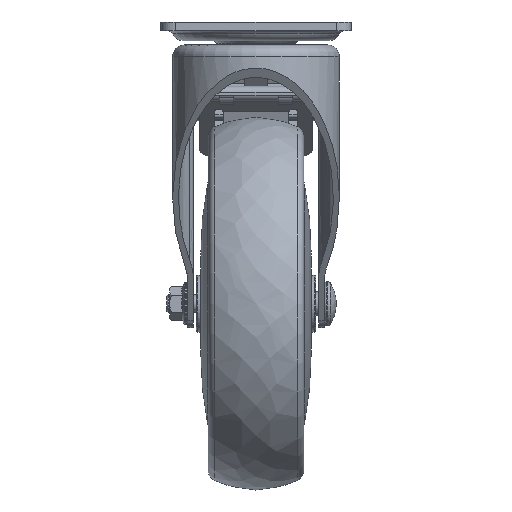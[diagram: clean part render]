
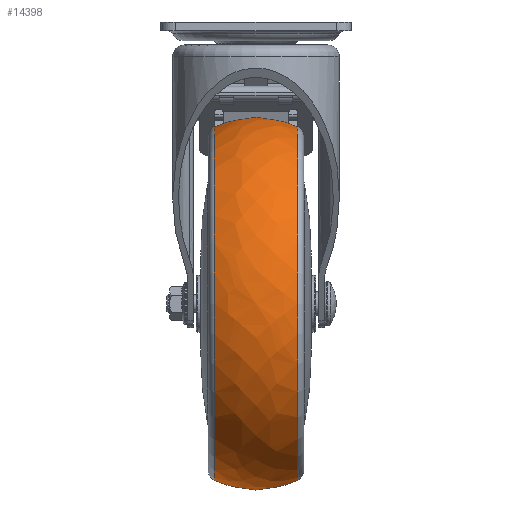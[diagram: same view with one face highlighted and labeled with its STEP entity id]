
A CAD part, left-side view. The second image highlights one B-rep face of the part: STEP entity #14398.
In plain terms, the highlighted free-form (B-spline) face has degree [2, 2] with [9, 9] control points.
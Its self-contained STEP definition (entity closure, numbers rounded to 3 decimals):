
#14272=CARTESIAN_POINT('',(85.758,-14.035,-39.4));
#14273=VERTEX_POINT('',#14272);
#14274=CARTESIAN_POINT('',(26.5,-14.035,-39.4));
#14275=DIRECTION('',(0.0,-1.0,0.0));
#14276=DIRECTION('',(1.0,0.0,0.0));
#14277=AXIS2_PLACEMENT_3D('',#14274,#14275,#14276);
#14278=CIRCLE('',#14277,59.258);
#14279=EDGE_CURVE('',#14273,#14273,#14278,.T.);
#14295=CARTESIAN_POINT('',(26.5,-9.682,-39.4));
#14296=CARTESIAN_POINT('',(26.5,-35.821,-47.698));
#14297=CARTESIAN_POINT('',(26.5,-31.623,-74.799));
#14298=CARTESIAN_POINT('',(26.5,-27.424,-101.9));
#14299=CARTESIAN_POINT('',(26.5,0.,-101.9));
#14300=CARTESIAN_POINT('',(26.5,27.424,-101.9));
#14301=CARTESIAN_POINT('',(26.5,31.623,-74.799));
#14302=CARTESIAN_POINT('',(26.5,35.821,-47.698));
#14303=CARTESIAN_POINT('',(26.5,9.682,-39.4));
#14304=CARTESIAN_POINT('',(26.5,-9.682,-39.4));
#14305=CARTESIAN_POINT('',(34.798,-35.821,-47.698));
#14306=CARTESIAN_POINT('',(61.899,-31.623,-74.799));
#14307=CARTESIAN_POINT('',(89.,-27.424,-101.9));
#14308=CARTESIAN_POINT('',(89.,0.,-101.9));
#14309=CARTESIAN_POINT('',(89.,27.424,-101.9));
#14310=CARTESIAN_POINT('',(61.899,31.623,-74.799));
#14311=CARTESIAN_POINT('',(34.798,35.821,-47.698));
#14312=CARTESIAN_POINT('',(26.5,9.682,-39.4));
#14313=CARTESIAN_POINT('',(26.5,-9.682,-39.4));
#14314=CARTESIAN_POINT('',(34.798,-35.821,-39.4));
#14315=CARTESIAN_POINT('',(61.899,-31.623,-39.4));
#14316=CARTESIAN_POINT('',(89.,-27.424,-39.4));
#14317=CARTESIAN_POINT('',(89.,0.,-39.4));
#14318=CARTESIAN_POINT('',(89.,27.424,-39.4));
#14319=CARTESIAN_POINT('',(61.899,31.623,-39.4));
#14320=CARTESIAN_POINT('',(34.798,35.821,-39.4));
#14321=CARTESIAN_POINT('',(26.5,9.682,-39.4));
#14322=CARTESIAN_POINT('',(26.5,-9.682,-39.4));
#14323=CARTESIAN_POINT('',(34.798,-35.821,-31.102));
#14324=CARTESIAN_POINT('',(61.899,-31.623,-4.001));
#14325=CARTESIAN_POINT('',(89.,-27.424,23.1));
#14326=CARTESIAN_POINT('',(89.,0.,23.1));
#14327=CARTESIAN_POINT('',(89.,27.424,23.1));
#14328=CARTESIAN_POINT('',(61.899,31.623,-4.001));
#14329=CARTESIAN_POINT('',(34.798,35.821,-31.102));
#14330=CARTESIAN_POINT('',(26.5,9.682,-39.4));
#14331=CARTESIAN_POINT('',(26.5,-9.682,-39.4));
#14332=CARTESIAN_POINT('',(26.5,-35.821,-31.102));
#14333=CARTESIAN_POINT('',(26.5,-31.623,-4.001));
#14334=CARTESIAN_POINT('',(26.5,-27.424,23.1));
#14335=CARTESIAN_POINT('',(26.5,0.,23.1));
#14336=CARTESIAN_POINT('',(26.5,27.424,23.1));
#14337=CARTESIAN_POINT('',(26.5,31.623,-4.001));
#14338=CARTESIAN_POINT('',(26.5,35.821,-31.102));
#14339=CARTESIAN_POINT('',(26.5,9.682,-39.4));
#14340=CARTESIAN_POINT('',(26.5,-9.682,-39.4));
#14341=CARTESIAN_POINT('',(18.202,-35.821,-31.102));
#14342=CARTESIAN_POINT('',(-8.899,-31.623,-4.001));
#14343=CARTESIAN_POINT('',(-36.,-27.424,23.1));
#14344=CARTESIAN_POINT('',(-36.,0.,23.1));
#14345=CARTESIAN_POINT('',(-36.,27.424,23.1));
#14346=CARTESIAN_POINT('',(-8.899,31.623,-4.001));
#14347=CARTESIAN_POINT('',(18.202,35.821,-31.102));
#14348=CARTESIAN_POINT('',(26.5,9.682,-39.4));
#14349=CARTESIAN_POINT('',(26.5,-9.682,-39.4));
#14350=CARTESIAN_POINT('',(18.202,-35.821,-39.4));
#14351=CARTESIAN_POINT('',(-8.899,-31.623,-39.4));
#14352=CARTESIAN_POINT('',(-36.0,-27.424,-39.4));
#14353=CARTESIAN_POINT('',(-36.,0.,-39.4));
#14354=CARTESIAN_POINT('',(-36.,27.424,-39.4));
#14355=CARTESIAN_POINT('',(-8.899,31.623,-39.4));
#14356=CARTESIAN_POINT('',(18.202,35.821,-39.4));
#14357=CARTESIAN_POINT('',(26.5,9.682,-39.4));
#14358=CARTESIAN_POINT('',(26.5,-9.682,-39.4));
#14359=CARTESIAN_POINT('',(18.202,-35.821,-47.698));
#14360=CARTESIAN_POINT('',(-8.899,-31.623,-74.799));
#14361=CARTESIAN_POINT('',(-36.,-27.424,-101.9));
#14362=CARTESIAN_POINT('',(-36.0,0.,-101.9));
#14363=CARTESIAN_POINT('',(-36.,27.424,-101.9));
#14364=CARTESIAN_POINT('',(-8.899,31.623,-74.799));
#14365=CARTESIAN_POINT('',(18.202,35.821,-47.698));
#14366=CARTESIAN_POINT('',(26.5,9.682,-39.4));
#14367=CARTESIAN_POINT('',(26.5,-9.682,-39.4));
#14368=CARTESIAN_POINT('',(26.5,-35.821,-47.698));
#14369=CARTESIAN_POINT('',(26.5,-31.623,-74.799));
#14370=CARTESIAN_POINT('',(26.5,-27.424,-101.9));
#14371=CARTESIAN_POINT('',(26.5,0.,-101.9));
#14372=CARTESIAN_POINT('',(26.5,27.424,-101.9));
#14373=CARTESIAN_POINT('',(26.5,31.623,-74.799));
#14374=CARTESIAN_POINT('',(26.5,35.821,-47.698));
#14375=CARTESIAN_POINT('',(26.5,9.682,-39.4));
#14383=(BOUNDED_SURFACE()B_SPLINE_SURFACE(2,2,((#14295,#14304,#14313,#14322,#14331,#14340,#14349,#14358,#14367),(#14296,#14305,#14314,#14323,#14332,#14341,#14350,#14359,#14368),(#14297,#14306,#14315,#14324,#14333,#14342,#14351,#14360,#14369),(#14298,#14307,#14316,#14325,#14334,#14343,#14352,#14361,#14370),(#14299,#14308,#14317,#14326,#14335,#14344,#14353,#14362,#14371),(#14300,#14309,#14318,#14327,#14336,#14345,#14354,#14363,#14372),(#14301,#14310,#14319,#14328,#14337,#14346,#14355,#14364,#14373),(#14302,#14311,#14320,#14329,#14338,#14347,#14356,#14365,#14374),(#14303,#14312,#14321,#14330,#14339,#14348,#14357,#14366,#14375)),.UNSPECIFIED.,.F.,.T.,.U.)B_SPLINE_SURFACE_WITH_KNOTS((3,2,2,2,3),(3,2,2,2,3),(-2.834,-1.417,0.0,1.417,2.834),(0.0,1.571,3.142,4.712,6.283),.UNSPECIFIED.)GEOMETRIC_REPRESENTATION_ITEM()RATIONAL_B_SPLINE_SURFACE(((1.0,0.707,1.0,0.707,1.0,0.707,1.0,0.707,1.0),(0.759,0.537,0.759,0.537,0.759,0.537,0.759,0.537,0.759),(1.0,0.707,1.0,0.707,1.0,0.707,1.0,0.707,1.0),(0.759,0.537,0.759,0.537,0.759,0.537,0.759,0.537,0.759),(1.0,0.707,1.0,0.707,1.0,0.707,1.0,0.707,1.0),(0.759,0.537,0.759,0.537,0.759,0.537,0.759,0.537,0.759),(1.0,0.707,1.0,0.707,1.0,0.707,1.0,0.707,1.0),(0.759,0.537,0.759,0.537,0.759,0.537,0.759,0.537,0.759),(1.0,0.707,1.0,0.707,1.0,0.707,1.0,0.707,1.0)))REPRESENTATION_ITEM('')SURFACE());
#14384=CARTESIAN_POINT('',(85.758,14.035,-39.4));
#14385=VERTEX_POINT('',#14384);
#14386=CARTESIAN_POINT('',(26.5,14.035,-39.4));
#14387=DIRECTION('',(0.0,-1.0,0.0));
#14388=DIRECTION('',(1.0,0.0,0.0));
#14389=AXIS2_PLACEMENT_3D('',#14386,#14387,#14388);
#14390=CIRCLE('',#14389,59.258);
#14391=EDGE_CURVE('',#14385,#14385,#14390,.T.);
#14392=ORIENTED_EDGE('',*,*,#14391,.T.);
#14393=EDGE_LOOP('',(#14392));
#14394=FACE_OUTER_BOUND('',#14393,.T.);
#14395=ORIENTED_EDGE('',*,*,#14279,.F.);
#14396=EDGE_LOOP('',(#14395));
#14397=FACE_BOUND('',#14396,.T.);
#14398=ADVANCED_FACE('',(#14394,#14397),#14383,.T.);
